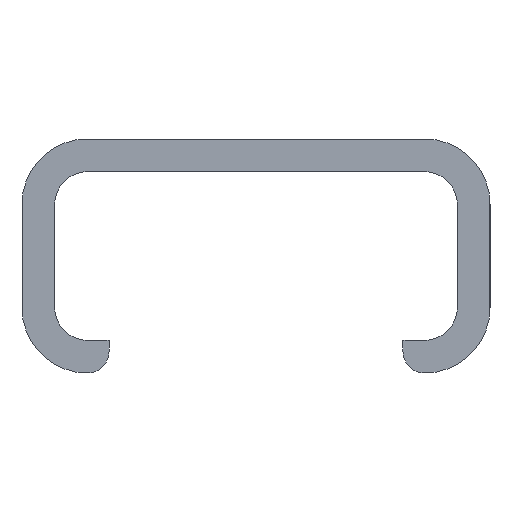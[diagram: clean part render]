
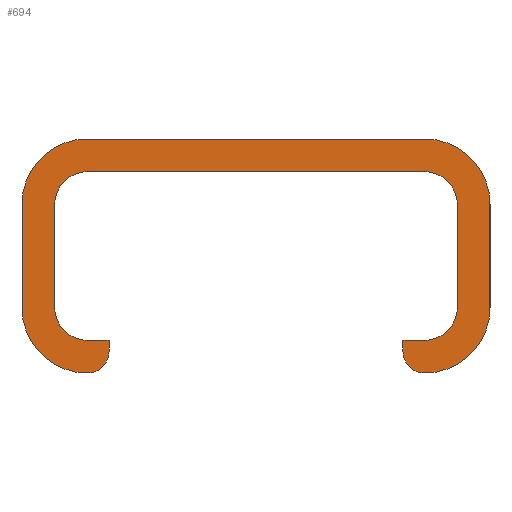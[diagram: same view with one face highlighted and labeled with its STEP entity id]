
A CAD part, left-side view. The second image highlights one B-rep face of the part: STEP entity #694.
In plain terms, the highlighted planar face has unit normal (-1, 0, 0).
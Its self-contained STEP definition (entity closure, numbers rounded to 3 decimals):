
#61=CARTESIAN_POINT('Vertex',(0.,-21.5,3.)) ;
#66=CARTESIAN_POINT('Axis2P3D Location',(0.,-15.5,3.)) ;
#70=CARTESIAN_POINT('Vertex',(0.,-15.5,-3.)) ;
#97=CARTESIAN_POINT('Axis2P3D Location',(0.,-15.5,-1.)) ;
#101=CARTESIAN_POINT('Vertex',(0.,-13.5,-1.)) ;
#128=CARTESIAN_POINT('Line Origine',(0.,-13.5,-0.5)) ;
#132=CARTESIAN_POINT('Vertex',(0.,-13.5,0.)) ;
#159=CARTESIAN_POINT('Line Origine',(0.,-14.5,0.)) ;
#163=CARTESIAN_POINT('Vertex',(0.,-15.5,0.)) ;
#190=CARTESIAN_POINT('Axis2P3D Location',(0.,-15.5,3.)) ;
#194=CARTESIAN_POINT('Vertex',(0.,-18.5,3.)) ;
#221=CARTESIAN_POINT('Line Origine',(0.,-18.5,7.75)) ;
#225=CARTESIAN_POINT('Vertex',(0.,-18.5,12.5)) ;
#252=CARTESIAN_POINT('Axis2P3D Location',(0.,-15.5,12.5)) ;
#256=CARTESIAN_POINT('Vertex',(0.,-15.5,15.5)) ;
#283=CARTESIAN_POINT('Line Origine',(0.,0.,15.5)) ;
#287=CARTESIAN_POINT('Vertex',(0.,15.5,15.5)) ;
#314=CARTESIAN_POINT('Axis2P3D Location',(0.,15.5,12.5)) ;
#318=CARTESIAN_POINT('Vertex',(0.,18.5,12.5)) ;
#345=CARTESIAN_POINT('Line Origine',(0.,18.5,7.75)) ;
#349=CARTESIAN_POINT('Vertex',(0.,18.5,3.)) ;
#376=CARTESIAN_POINT('Axis2P3D Location',(0.,15.5,3.)) ;
#380=CARTESIAN_POINT('Vertex',(0.,15.5,0.)) ;
#402=CARTESIAN_POINT('Line Origine',(0.,14.5,0.)) ;
#406=CARTESIAN_POINT('Vertex',(0.,13.5,0.)) ;
#433=CARTESIAN_POINT('Line Origine',(0.,13.5,-0.5)) ;
#437=CARTESIAN_POINT('Vertex',(0.,13.5,-1.)) ;
#464=CARTESIAN_POINT('Axis2P3D Location',(0.,15.5,-1.)) ;
#468=CARTESIAN_POINT('Vertex',(0.,15.5,-3.)) ;
#495=CARTESIAN_POINT('Axis2P3D Location',(0.,15.5,3.)) ;
#499=CARTESIAN_POINT('Vertex',(0.,21.5,3.)) ;
#526=CARTESIAN_POINT('Line Origine',(0.,21.5,7.75)) ;
#530=CARTESIAN_POINT('Vertex',(0.,21.5,12.5)) ;
#557=CARTESIAN_POINT('Axis2P3D Location',(0.,15.5,12.5)) ;
#561=CARTESIAN_POINT('Vertex',(0.,15.5,18.5)) ;
#588=CARTESIAN_POINT('Line Origine',(0.,0.,18.5)) ;
#592=CARTESIAN_POINT('Vertex',(0.,-15.5,18.5)) ;
#619=CARTESIAN_POINT('Axis2P3D Location',(0.,-15.5,12.5)) ;
#623=CARTESIAN_POINT('Vertex',(0.,-21.5,12.5)) ;
#650=CARTESIAN_POINT('Line Origine',(0.,-21.5,7.75)) ;
#667=CARTESIAN_POINT('Axis2P3D Location',(0.,0.,0.)) ;
#67=DIRECTION('Axis2P3D Direction',(1.,0.,0.)) ;
#98=DIRECTION('Axis2P3D Direction',(1.,0.,0.)) ;
#129=DIRECTION('Vector Direction',(0.,0.,-1.)) ;
#160=DIRECTION('Vector Direction',(0.,1.,0.)) ;
#191=DIRECTION('Axis2P3D Direction',(1.,0.,0.)) ;
#222=DIRECTION('Vector Direction',(0.,0.,-1.)) ;
#253=DIRECTION('Axis2P3D Direction',(1.,0.,0.)) ;
#284=DIRECTION('Vector Direction',(0.,-1.,0.)) ;
#315=DIRECTION('Axis2P3D Direction',(1.,0.,0.)) ;
#346=DIRECTION('Vector Direction',(0.,0.,1.)) ;
#377=DIRECTION('Axis2P3D Direction',(1.,0.,0.)) ;
#403=DIRECTION('Vector Direction',(0.,1.,0.)) ;
#434=DIRECTION('Vector Direction',(0.,0.,1.)) ;
#465=DIRECTION('Axis2P3D Direction',(1.,0.,0.)) ;
#496=DIRECTION('Axis2P3D Direction',(1.,0.,0.)) ;
#527=DIRECTION('Vector Direction',(0.,0.,-1.)) ;
#558=DIRECTION('Axis2P3D Direction',(1.,0.,0.)) ;
#589=DIRECTION('Vector Direction',(0.,1.,0.)) ;
#620=DIRECTION('Axis2P3D Direction',(1.,0.,0.)) ;
#651=DIRECTION('Vector Direction',(0.,0.,1.)) ;
#668=DIRECTION('Axis2P3D Direction',(1.,0.,0.)) ;
#669=DIRECTION('Axis2P3D XDirection',(0.,1.,0.)) ;
#68=AXIS2_PLACEMENT_3D('Circle Axis2P3D',#66,#67,$) ;
#99=AXIS2_PLACEMENT_3D('Circle Axis2P3D',#97,#98,$) ;
#192=AXIS2_PLACEMENT_3D('Circle Axis2P3D',#190,#191,$) ;
#254=AXIS2_PLACEMENT_3D('Circle Axis2P3D',#252,#253,$) ;
#316=AXIS2_PLACEMENT_3D('Circle Axis2P3D',#314,#315,$) ;
#378=AXIS2_PLACEMENT_3D('Circle Axis2P3D',#376,#377,$) ;
#466=AXIS2_PLACEMENT_3D('Circle Axis2P3D',#464,#465,$) ;
#497=AXIS2_PLACEMENT_3D('Circle Axis2P3D',#495,#496,$) ;
#559=AXIS2_PLACEMENT_3D('Circle Axis2P3D',#557,#558,$) ;
#621=AXIS2_PLACEMENT_3D('Circle Axis2P3D',#619,#620,$) ;
#670=AXIS2_PLACEMENT_3D('Plane Axis2P3D',#667,#668,#669) ;
#673=ORIENTED_EDGE('',*,*,#654,.F.) ;
#674=ORIENTED_EDGE('',*,*,#625,.F.) ;
#675=ORIENTED_EDGE('',*,*,#594,.F.) ;
#676=ORIENTED_EDGE('',*,*,#563,.F.) ;
#677=ORIENTED_EDGE('',*,*,#532,.F.) ;
#678=ORIENTED_EDGE('',*,*,#501,.F.) ;
#679=ORIENTED_EDGE('',*,*,#470,.F.) ;
#680=ORIENTED_EDGE('',*,*,#439,.F.) ;
#681=ORIENTED_EDGE('',*,*,#408,.F.) ;
#682=ORIENTED_EDGE('',*,*,#382,.F.) ;
#683=ORIENTED_EDGE('',*,*,#351,.F.) ;
#684=ORIENTED_EDGE('',*,*,#320,.F.) ;
#685=ORIENTED_EDGE('',*,*,#289,.F.) ;
#686=ORIENTED_EDGE('',*,*,#258,.F.) ;
#687=ORIENTED_EDGE('',*,*,#227,.F.) ;
#688=ORIENTED_EDGE('',*,*,#196,.F.) ;
#689=ORIENTED_EDGE('',*,*,#165,.F.) ;
#690=ORIENTED_EDGE('',*,*,#134,.F.) ;
#691=ORIENTED_EDGE('',*,*,#103,.F.) ;
#692=ORIENTED_EDGE('',*,*,#72,.F.) ;
#130=VECTOR('Line Direction',#129,1.) ;
#161=VECTOR('Line Direction',#160,1.) ;
#223=VECTOR('Line Direction',#222,1.) ;
#285=VECTOR('Line Direction',#284,1.) ;
#347=VECTOR('Line Direction',#346,1.) ;
#404=VECTOR('Line Direction',#403,1.) ;
#435=VECTOR('Line Direction',#434,1.) ;
#528=VECTOR('Line Direction',#527,1.) ;
#590=VECTOR('Line Direction',#589,1.) ;
#652=VECTOR('Line Direction',#651,1.) ;
#694=ADVANCED_FACE('Corps principal',(#693),#671,.F.) ;
#69=CIRCLE('generated circle',#68,6.) ;
#100=CIRCLE('generated circle',#99,2.) ;
#193=CIRCLE('generated circle',#192,3.) ;
#255=CIRCLE('generated circle',#254,3.) ;
#317=CIRCLE('generated circle',#316,3.) ;
#379=CIRCLE('generated circle',#378,3.) ;
#467=CIRCLE('generated circle',#466,2.) ;
#498=CIRCLE('generated circle',#497,6.) ;
#560=CIRCLE('generated circle',#559,6.) ;
#622=CIRCLE('generated circle',#621,6.) ;
#72=EDGE_CURVE('',#62,#71,#69,.T.) ;
#103=EDGE_CURVE('',#71,#102,#100,.T.) ;
#134=EDGE_CURVE('',#102,#133,#131,.F.) ;
#165=EDGE_CURVE('',#133,#164,#162,.F.) ;
#196=EDGE_CURVE('',#164,#195,#193,.F.) ;
#227=EDGE_CURVE('',#195,#226,#224,.F.) ;
#258=EDGE_CURVE('',#226,#257,#255,.F.) ;
#289=EDGE_CURVE('',#257,#288,#286,.F.) ;
#320=EDGE_CURVE('',#288,#319,#317,.F.) ;
#351=EDGE_CURVE('',#319,#350,#348,.F.) ;
#382=EDGE_CURVE('',#350,#381,#379,.F.) ;
#408=EDGE_CURVE('',#381,#407,#405,.F.) ;
#439=EDGE_CURVE('',#407,#438,#436,.F.) ;
#470=EDGE_CURVE('',#438,#469,#467,.T.) ;
#501=EDGE_CURVE('',#469,#500,#498,.T.) ;
#532=EDGE_CURVE('',#500,#531,#529,.F.) ;
#563=EDGE_CURVE('',#531,#562,#560,.T.) ;
#594=EDGE_CURVE('',#562,#593,#591,.F.) ;
#625=EDGE_CURVE('',#593,#624,#622,.T.) ;
#654=EDGE_CURVE('',#624,#62,#653,.F.) ;
#672=EDGE_LOOP('',(#673,#674,#675,#676,#677,#678,#679,#680,#681,#682,#683,#684,#685,#686,#687,#688,#689,#690,#691,#692)) ;
#693=FACE_OUTER_BOUND('',#672,.T.) ;
#131=LINE('Line',#128,#130) ;
#162=LINE('Line',#159,#161) ;
#224=LINE('Line',#221,#223) ;
#286=LINE('Line',#283,#285) ;
#348=LINE('Line',#345,#347) ;
#405=LINE('Line',#402,#404) ;
#436=LINE('Line',#433,#435) ;
#529=LINE('Line',#526,#528) ;
#591=LINE('Line',#588,#590) ;
#653=LINE('Line',#650,#652) ;
#671=PLANE('Plane',#670) ;
#62=VERTEX_POINT('',#61) ;
#71=VERTEX_POINT('',#70) ;
#102=VERTEX_POINT('',#101) ;
#133=VERTEX_POINT('',#132) ;
#164=VERTEX_POINT('',#163) ;
#195=VERTEX_POINT('',#194) ;
#226=VERTEX_POINT('',#225) ;
#257=VERTEX_POINT('',#256) ;
#288=VERTEX_POINT('',#287) ;
#319=VERTEX_POINT('',#318) ;
#350=VERTEX_POINT('',#349) ;
#381=VERTEX_POINT('',#380) ;
#407=VERTEX_POINT('',#406) ;
#438=VERTEX_POINT('',#437) ;
#469=VERTEX_POINT('',#468) ;
#500=VERTEX_POINT('',#499) ;
#531=VERTEX_POINT('',#530) ;
#562=VERTEX_POINT('',#561) ;
#593=VERTEX_POINT('',#592) ;
#624=VERTEX_POINT('',#623) ;
